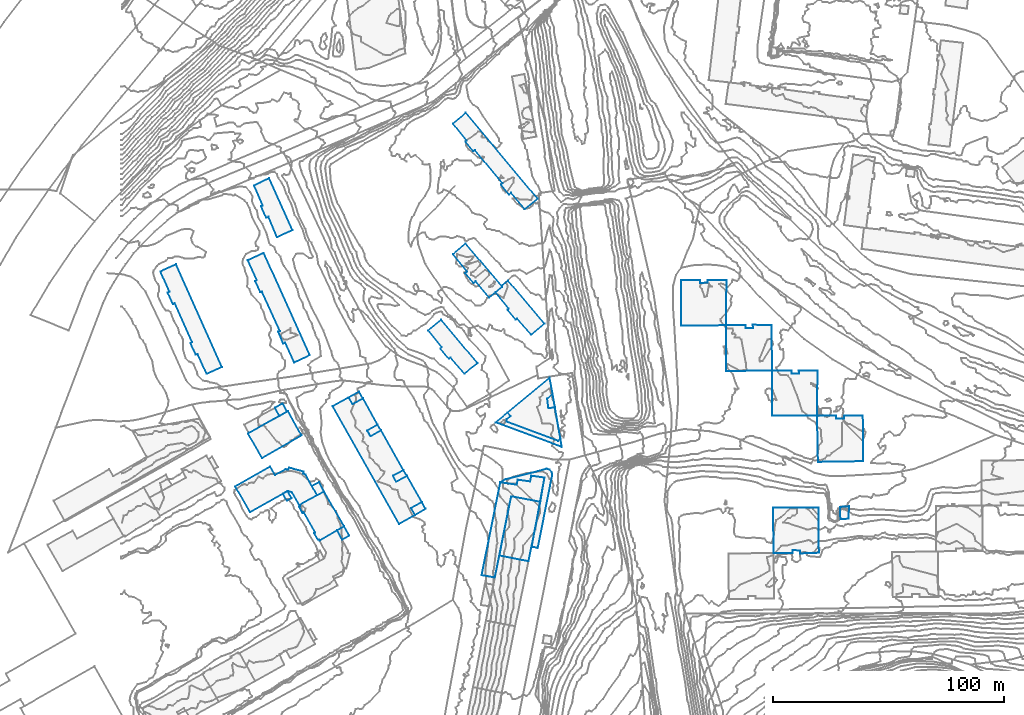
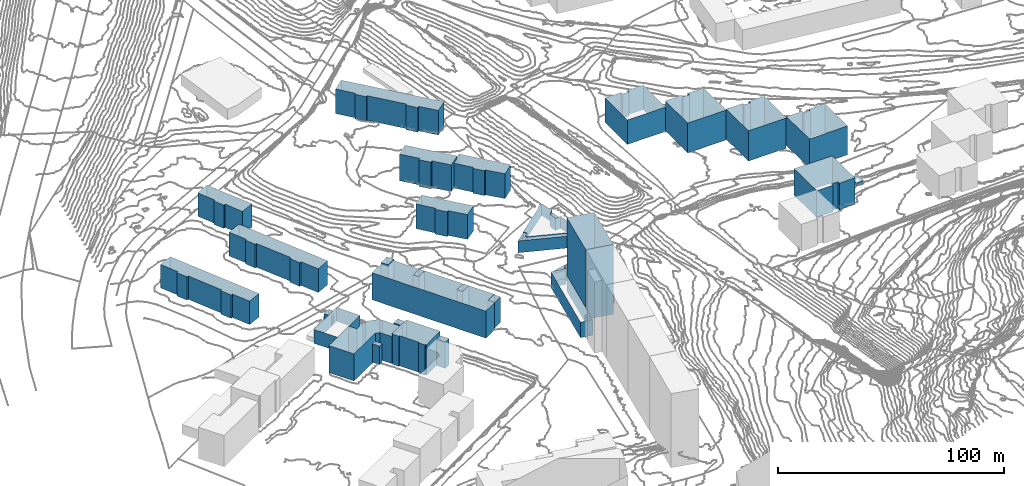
# Not in any storey, part 30 of 419: 31 walls.
"""IFC2X3 model written with IfcOpenShell, lengths in metres."""

from ifc_helpers import new_model, si_unit, frame, origin_with_axes, place, context, subcontext, project, faceted_brep, element, save


model = new_model("IFC2X3")

# Units and contexts
model_context = context("Model", 3, precision=1e-05, world=origin_with_axes())
body_context = subcontext(model_context, "Body", "Model", "MODEL_VIEW")
ifc_project = project(units=[si_unit("AREAUNIT", "SQUARE_METRE"), si_unit("LENGTHUNIT", "METRE")], contexts=[model_context])

# Walls
wall_1_placement = place(None, frame((261.3920204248, 558.3976909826, 23.918000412), z_axis=(0.0, 0.0, 1.0), x_axis=(1.0, 0.0, 0.0)))
element("IfcWall", 1, at=wall_1_placement, Name="Mur 0", context=body_context, shape_type="Brep", body=[
    faceted_brep([(0.0, 0.0, 16.181999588), (0.0, 19.7999999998, 16.181999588), (0.0, 0.0, 0.0), (0.0, 19.7999999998, 0.0), (19.7999999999, 0.2000000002, 16.181999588), (19.7999999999, 0.2000000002, 0.0), (19.7, 19.9000000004, 16.181999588), (19.7, 19.9000000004, 0.0), (11.5, 20.0, 16.181999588), (11.5, 20.0, 0.0), (11.6, 18.5999999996, 16.181999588), (11.6, 18.5999999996, 0.0), (8.3999999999, 18.5999999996, 16.181999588), (8.3999999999, 18.5999999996, 0.0), (8.5, 19.9000000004, 16.181999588), (8.5, 19.9000000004, 0.0)], [[[0, 1, 2]], [[2, 1, 3]], [[4, 0, 5]], [[5, 0, 2]], [[6, 4, 7]], [[7, 4, 5]], [[8, 6, 9]], [[9, 6, 7]], [[10, 8, 11]], [[11, 8, 9]], [[12, 10, 13]], [[13, 10, 11]], [[1, 14, 3]], [[3, 14, 15]], [[14, 12, 15]], [[15, 12, 13]]]),
])
wall_2_placement = place(None, frame((166.4920204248, 536.4976909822, 18.7135003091), z_axis=(0.0, 0.0, 1.0), x_axis=(1.0, 0.0, 0.0)))
element("IfcWall", 2, at=wall_2_placement, Name="Mur 0", context=body_context, shape_type="Brep", body=[
    faceted_brep([(1.6, 2.4000000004, 6.4864996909), (0.4, 4.0, 6.4864996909), (1.6, 2.4000000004, 0.0), (0.4, 4.0, 0.0), (0.0, 1.1000000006, 6.4864996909), (0.0, 1.1000000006, 0.0), (0.0, 0.0, 6.4864996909), (0.0, 0.0, 0.0), (22.1, -8.2999999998, 6.4864996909), (22.1, -8.2999999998, 0.0), (23.2, -7.2999999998, 6.4864996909), (23.2, -7.2999999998, 0.0), (20.7999999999, 6.2000000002, 6.4864996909), (20.7999999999, 6.2000000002, 0.0), (18.0, 5.8000000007, 6.4864996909), (18.0, 5.8000000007, 0.0), (17.5, 9.9000000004, 6.4864996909), (17.5, 9.9000000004, 0.0), (19.7999999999, 12.1000000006, 6.4864996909), (19.7999999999, 12.1000000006, 0.0), (18.5, 19.0, 6.4864996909), (18.5, 19.0, 0.0)], [[[0, 1, 2]], [[2, 1, 3]], [[4, 0, 5]], [[5, 0, 2]], [[6, 4, 7]], [[7, 4, 5]], [[8, 6, 9]], [[9, 6, 7]], [[10, 8, 11]], [[11, 8, 9]], [[12, 10, 13]], [[13, 10, 11]], [[14, 12, 15]], [[15, 12, 13]], [[16, 14, 17]], [[17, 14, 15]], [[18, 16, 19]], [[19, 16, 17]], [[1, 20, 3]], [[3, 20, 21]], [[20, 18, 21]], [[21, 18, 19]]]),
])
wall_3_placement = place(None, frame((183.9920204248, 546.3976909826, 18.9063995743), z_axis=(0.0, 0.0, 1.0), x_axis=(1.0, 0.0, 0.0)))
element("IfcWall", 3, at=wall_3_placement, Name="Mur 0", context=body_context, shape_type="Brep", body=[
    faceted_brep([(0.0, 0.0, 5.1936004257), (2.2999999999, 2.2000000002, 5.1936004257), (0.0, 0.0, 0.0), (2.2999999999, 2.2000000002, 0.0), (0.5, -4.0999999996, 5.1936004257), (0.5, -4.0999999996, 0.0), (3.2999999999, -3.7000000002, 5.1936004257), (3.2999999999, -3.7000000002, 0.0)], [[[0, 1, 2]], [[2, 1, 3]], [[4, 0, 5]], [[5, 0, 2]], [[1, 6, 3]], [[3, 6, 7]], [[6, 4, 7]], [[7, 4, 5]]]),
])
wall_4_placement = place(None, frame((82.1920204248, 508.6976909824, 9.9609997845), z_axis=(0.0, 0.0, 1.0), x_axis=(1.0, 0.0, 0.0)))
element("IfcWall", 4, at=wall_4_placement, Name="Mur 0", context=body_context, shape_type="Brep", body=[
    faceted_brep([(2.3, -4.0, 15.0390002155), (0.0, 0.0, 15.0390002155), (2.3, -4.0, 0.0), (0.0, 0.0, 0.0), (5.3, -2.3999999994, 15.0390002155), (5.3, -2.3999999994, 0.0), (3.2000000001, 1.6000000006, 15.0390002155), (3.2000000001, 1.6000000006, 0.0)], [[[0, 1, 2]], [[2, 1, 3]], [[4, 0, 5]], [[5, 0, 2]], [[1, 6, 3]], [[3, 6, 7]], [[6, 4, 7]], [[7, 4, 5]]]),
])
wall_5_placement = place(None, frame((93.0920204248, 489.4976909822, 9.7441997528), z_axis=(0.0, 0.0, 1.0), x_axis=(1.0, 0.0, 0.0)))
element("IfcWall", 5, at=wall_5_placement, Name="Mur 0", context=body_context, shape_type="Brep", body=[
    faceted_brep([(0.0, 0.0, 13.9558002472), (3.0, 1.8000000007, 13.9558002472), (0.0, 0.0, 0.0), (3.0, 1.8000000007, 0.0), (2.2, -4.0, 13.9558002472), (2.2, -4.0, 0.0), (5.3, -2.1999999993, 13.9558002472), (5.3, -2.1999999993, 0.0)], [[[0, 1, 2]], [[2, 1, 3]], [[4, 0, 5]], [[5, 0, 2]], [[1, 6, 3]], [[3, 6, 7]], [[6, 4, 7]], [[7, 4, 5]]]),
])
wall_6_placement = place(None, frame((125.1920204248, 499.1976909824, 14.0700001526), z_axis=(0.0, 0.0, 1.0), x_axis=(1.0, 0.0, 0.0)))
element("IfcWall", 6, at=wall_6_placement, Name="Mur 0", context=body_context, shape_type="Brep", body=[
    faceted_brep([(6.1, -0.3999999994, 13.7299998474), (1.6, -3.0, 13.7299998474), (6.1, -0.3999999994, 0.0), (1.6, -3.0, 0.0), (4.6, 2.6000000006, 13.7299998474), (4.6, 2.6000000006, 0.0), (0.0, 0.0, 13.7299998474), (0.0, 0.0, 0.0)], [[[0, 1, 2]], [[2, 1, 3]], [[4, 0, 5]], [[5, 0, 2]], [[1, 6, 3]], [[3, 6, 7]], [[6, 4, 7]], [[7, 4, 5]]]),
])
wall_7_placement = place(None, frame((106.1920204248, 532.6976909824, 14.2120002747), z_axis=(0.0, 0.0, 1.0), x_axis=(1.0, 0.0, 0.0)))
element("IfcWall", 7, at=wall_7_placement, Name="Mur 0", context=body_context, shape_type="Brep", body=[
    faceted_brep([(0.0, 0.0, 13.7879997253), (4.4, 2.5, 13.7879997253), (0.0, 0.0, 0.0), (4.4, 2.5, 0.0), (1.4, -2.5, 13.7879997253), (1.4, -2.5, 0.0), (5.9, 0.1000000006, 13.7879997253), (5.9, 0.1000000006, 0.0)], [[[0, 1, 2]], [[2, 1, 3]], [[4, 0, 5]], [[5, 0, 2]], [[1, 6, 3]], [[3, 6, 7]], [[6, 4, 7]], [[7, 4, 5]]]),
])
wall_8_placement = place(None, frame((66.1920204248, 542.4976909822, 10.0399999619), z_axis=(0.0, 0.0, 1.0), x_axis=(1.0, 0.0, 0.0)))
element("IfcWall", 8, at=wall_8_placement, Name="Mur 0", context=body_context, shape_type="Brep", body=[
    faceted_brep([(2.0, -3.5, 5.0600000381), (0.0, 0.0, 5.0600000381), (2.0, -3.5, 0.0), (0.0, 0.0, 0.0), (5.2000000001, -1.5999999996, 5.0600000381), (5.2000000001, -1.5999999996, 0.0), (3.4, 1.9000000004, 5.0600000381), (3.4, 1.9000000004, 0.0)], [[[0, 1, 2]], [[2, 1, 3]], [[4, 0, 5]], [[5, 0, 2]], [[1, 6, 3]], [[3, 6, 7]], [[6, 4, 7]], [[7, 4, 5]]]),
])
wall_9_placement = place(None, frame((54.5920204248, 531.3976909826, 9.7736001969), z_axis=(0.0, 0.0, 1.0), x_axis=(1.0, 0.0, 0.0)))
element("IfcWall", 9, at=wall_9_placement, Name="Mur 0", context=body_context, shape_type="Brep", body=[
    faceted_brep([(0.0, 0.0, 7.5263998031), (0.4, 0.2999999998, 7.5263998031), (0.0, 0.0, 0.0), (0.4, 0.2999999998, 0.0), (6.1, -10.5999999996, 7.5263998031), (6.1, -10.5999999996, 0.0), (23.1, -0.7999999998, 7.5263998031), (23.1, -0.7999999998, 0.0), (17.3, 9.7000000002, 7.5263998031), (17.3, 9.7000000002, 0.0)], [[[0, 1, 2]], [[2, 1, 3]], [[4, 0, 5]], [[5, 0, 2]], [[6, 4, 7]], [[7, 4, 5]], [[1, 8, 3]], [[3, 8, 9]], [[8, 6, 9]], [[9, 6, 7]]]),
])
wall_10_placement = place(None, frame((163.2920204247, 478.5976909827, 16.6299998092), z_axis=(0.0, 0.0, 1.0), x_axis=(1.0, 0.0, 0.0)))
element("IfcWall", 10, at=wall_10_placement, Name="Mur 0", context=body_context, shape_type="Brep", body=[
    faceted_brep([(17.7000000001, 23.2000000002, 37.6700001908), (12.6000000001, -2.5, 37.6700001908), (17.7000000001, 23.2000000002, 0.0), (12.6000000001, -2.5, 0.0), (5.1000000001, 25.5999999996, 37.6700001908), (5.1000000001, 25.5999999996, 0.0), (0.0, 0.0, 37.6700001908), (0.0, 0.0, 0.0)], [[[0, 1, 2]], [[2, 1, 3]], [[4, 0, 5]], [[5, 0, 2]], [[1, 6, 3]], [[3, 6, 7]], [[6, 4, 7]], [[7, 4, 5]]]),
])
wall_11_placement = place(None, frame((310.6920204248, 499.5976909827, 27.395499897), z_axis=(0.0, 0.0, 1.0), x_axis=(1.0, 0.0, 0.0)))
element("IfcWall", 11, at=wall_11_placement, Name="Mur 0", context=body_context, shape_type="Brep", body=[
    faceted_brep([(3.8, 0.2999999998, 1.904500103), (3.7000000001, -5.1000000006, 1.904500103), (3.8, 0.2999999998, 0.0), (3.7000000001, -5.1000000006, 0.0), (0.0, 0.0, 1.904500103), (0.0, 0.0, 0.0), (0.1, -5.2000000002, 1.904500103), (0.1, -5.2000000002, 0.0)], [[[0, 1, 2]], [[2, 1, 3]], [[4, 0, 5]], [[5, 0, 2]], [[1, 6, 3]], [[3, 6, 7]], [[6, 4, 7]], [[7, 4, 5]]]),
])
wall_12_placement = place(None, frame((98.0920204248, 546.9976909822, 13.6560001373), z_axis=(0.0, 0.0, 1.0), x_axis=(1.0, 0.0, 0.0)))
element("IfcWall", 12, at=wall_12_placement, Name="Mur 0", context=body_context, shape_type="Brep", body=[
    faceted_brep([(1.7, -2.8999999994, 15.1439998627), (0.0, 0.0, 15.1439998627), (1.7, -2.8999999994, 0.0), (0.0, 0.0, 0.0), (6.2, -0.3999999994, 15.1439998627), (6.2, -0.3999999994, 0.0), (4.5, 2.5, 15.1439998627), (4.5, 2.5, 0.0)], [[[0, 1, 2]], [[2, 1, 3]], [[4, 0, 5]], [[5, 0, 2]], [[1, 6, 3]], [[3, 6, 7]], [[6, 4, 7]], [[7, 4, 5]]]),
])
wall_13_placement = place(None, frame((300.6920204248, 539.1976909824, 25.8771994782), z_axis=(0.0, 0.0, 1.0), x_axis=(1.0, 0.0, 0.0)))
element("IfcWall", 13, at=wall_13_placement, Name="Mur 0", context=body_context, shape_type="Brep", body=[
    faceted_brep([(0.4, -20.0999999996, 15.6228005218), (0.0, 0.0, 15.6228005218), (0.4, -20.0999999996, 0.0), (0.0, 0.0, 0.0), (20.0, -19.7999999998, 15.6228005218), (20.0, -19.7999999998, 0.0), (19.8, 0.0, 15.6228005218), (19.8, 0.0, 0.0), (11.6, -0.0999999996, 15.6228005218), (11.6, -0.0999999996, 0.0), (11.6, -1.2999999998, 15.6228005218), (11.6, -1.2999999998, 0.0), (8.3, -1.3999999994, 15.6228005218), (8.3, -1.3999999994, 0.0), (8.3, -0.0999999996, 15.6228005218), (8.3, -0.0999999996, 0.0)], [[[0, 1, 2]], [[2, 1, 3]], [[4, 0, 5]], [[5, 0, 2]], [[6, 4, 7]], [[7, 4, 5]], [[8, 6, 9]], [[9, 6, 7]], [[10, 8, 11]], [[11, 8, 9]], [[12, 10, 13]], [[13, 10, 11]], [[1, 14, 3]], [[3, 14, 15]], [[14, 12, 15]], [[15, 12, 13]]]),
])
wall_14_placement = place(None, frame((143.1920204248, 665.4976909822, 21.6827999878), z_axis=(0.0, 0.0, 1.0), x_axis=(1.0, 0.0, 0.0)))
element("IfcWall", 14, at=wall_14_placement, Name="Mur 0", context=body_context, shape_type="Brep", body=[
    faceted_brep([(6.0, -7.3999999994, 13.3172000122), (0.0, 0.0, 13.3172000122), (6.0, -7.3999999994, 0.0), (0.0, 0.0, 0.0), (5.4, -7.8999999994, 13.3172000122), (5.4, -7.8999999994, 0.0), (8.8, -11.8999999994, 13.3172000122), (8.8, -11.8999999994, 0.0), (9.5, -11.5, 13.3172000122), (9.5, -11.5, 0.0), (21.4, -25.7999999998, 13.3172000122), (21.4, -25.7999999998, 0.0), (20.8, -26.3999999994, 13.3172000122), (20.8, -26.3999999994, 0.0), (24.3, -30.6999999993, 13.3172000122), (24.3, -30.6999999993, 0.0), (25.1, -30.0, 13.3172000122), (25.1, -30.0, 0.0), (31.1, -37.0999999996, 13.3172000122), (31.1, -37.0999999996, 0.0), (36.7000000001, -32.5999999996, 13.3172000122), (36.7000000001, -32.5999999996, 0.0), (5.6, 4.6000000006, 13.3172000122), (5.6, 4.6000000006, 0.0)], [[[0, 1, 2]], [[2, 1, 3]], [[4, 0, 5]], [[5, 0, 2]], [[6, 4, 7]], [[7, 4, 5]], [[8, 6, 9]], [[9, 6, 7]], [[10, 8, 11]], [[11, 8, 9]], [[12, 10, 13]], [[13, 10, 11]], [[14, 12, 15]], [[15, 12, 13]], [[16, 14, 17]], [[17, 14, 15]], [[18, 16, 19]], [[19, 16, 17]], [[20, 18, 21]], [[21, 18, 19]], [[1, 22, 3]], [[3, 22, 23]], [[22, 20, 23]], [[23, 20, 21]]]),
])
wall_15_placement = place(None, frame((281.6920204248, 499.2976909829, 29.7783000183), z_axis=(0.0, 0.0, 1.0), x_axis=(1.0, 0.0, 0.0)))
element("IfcWall", 15, at=wall_15_placement, Name="Mur 0", context=body_context, shape_type="Brep", body=[
    faceted_brep([(8.5, -19.7000000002, 14.4216999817), (0.2000000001, -19.7000000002, 14.4216999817), (8.5, -19.7000000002, 0.0), (0.2000000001, -19.7000000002, 0.0), (8.5, -18.4000000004, 14.4216999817), (8.5, -18.4000000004, 0.0), (11.7000000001, -18.5, 14.4216999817), (11.7000000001, -18.5, 0.0), (11.7000000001, -19.8000000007, 14.4216999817), (11.7000000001, -19.8000000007, 0.0), (19.8, -19.5, 14.4216999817), (19.8, -19.5, 0.0), (19.6, 0.0, 14.4216999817), (19.6, 0.0, 0.0), (0.0, 0.0, 14.4216999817), (0.0, 0.0, 0.0)], [[[0, 1, 2]], [[2, 1, 3]], [[4, 0, 5]], [[5, 0, 2]], [[6, 4, 7]], [[7, 4, 5]], [[8, 6, 9]], [[9, 6, 7]], [[10, 8, 11]], [[11, 8, 9]], [[12, 10, 13]], [[13, 10, 11]], [[1, 14, 3]], [[3, 14, 15]], [[14, 12, 15]], [[15, 12, 13]]]),
])
wall_16_placement = place(None, frame((163.6920204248, 510.2976909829, 17.7051999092), z_axis=(0.0, 0.0, 1.0), x_axis=(1.0, 0.0, 0.0)))
element("IfcWall", 16, at=wall_16_placement, Name="Mur 0", context=body_context, shape_type="Brep", body=[
    faceted_brep([(7.1, -1.1000000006, 4.2948000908), (0.0, 0.0, 4.2948000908), (7.1, -1.1000000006, 0.0), (0.0, 0.0, 0.0), (7.5, 1.0999999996, 4.2948000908), (7.5, 1.0999999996, 0.0), (12.9, 0.2999999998, 4.2948000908), (12.9, 0.2999999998, 0.0), (13.4, 2.7999999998, 4.2948000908), (13.4, 2.7999999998, 0.0), (19.1, 2.0, 4.2948000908), (19.1, 2.0, 0.0), (13.6, -27.9000000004, 4.2948000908), (13.6, -27.9000000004, 0.0), (16.2000000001, -28.4000000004, 4.2948000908), (16.2000000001, -28.4000000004, 0.0), (22.5, 3.3999999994, 4.2948000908), (22.5, 3.3999999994, 0.0), (22.3, 4.3999999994, 4.2948000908), (22.3, 4.3999999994, 0.0), (21.4, 5.3999999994, 4.2948000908), (21.4, 5.3999999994, 0.0), (20.1, 5.7999999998, 4.2948000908), (20.1, 5.7999999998, 0.0), (2.3, 1.2999999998, 4.2948000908), (2.3, 1.2999999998, 0.0)], [[[0, 1, 2]], [[2, 1, 3]], [[4, 0, 5]], [[5, 0, 2]], [[6, 4, 7]], [[7, 4, 5]], [[8, 6, 9]], [[9, 6, 7]], [[10, 8, 11]], [[11, 8, 9]], [[12, 10, 13]], [[13, 10, 11]], [[14, 12, 15]], [[15, 12, 13]], [[16, 14, 17]], [[17, 14, 15]], [[18, 16, 19]], [[19, 16, 17]], [[20, 18, 21]], [[21, 18, 19]], [[22, 20, 23]], [[23, 20, 21]], [[1, 24, 3]], [[3, 24, 25]], [[24, 22, 25]], [[25, 22, 23]]]),
])
wall_17_placement = place(None, frame((69.6920204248, 505.3976909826, 9.9300001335), z_axis=(0.0, 0.0, 1.0), x_axis=(1.0, 0.0, 0.0)))
element("IfcWall", 17, at=wall_17_placement, Name="Mur 0", context=body_context, shape_type="Brep", body=[
    faceted_brep([(1.7000000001, -3.0999999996, 10.0699998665), (0.0, 0.0, 10.0699998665), (1.7000000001, -3.0999999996, 0.0), (0.0, 0.0, 0.0), (3.7000000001, -2.0, 10.0699998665), (3.7000000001, -2.0, 0.0), (2.0, 1.0999999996, 10.0699998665), (2.0, 1.0999999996, 0.0)], [[[0, 1, 2]], [[2, 1, 3]], [[4, 0, 5]], [[5, 0, 2]], [[1, 6, 3]], [[3, 6, 7]], [[6, 4, 7]], [[7, 4, 5]]]),
])
wall_18_placement = place(None, frame((49.0920204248, 508.4976909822, 9.7259999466), z_axis=(0.0, 0.0, 1.0), x_axis=(1.0, 0.0, 0.0)))
element("IfcWall", 18, at=wall_18_placement, Name="Mur 0", context=body_context, shape_type="Brep", body=[
    faceted_brep([(30.4, 5.1000000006, 14.6740000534), (33.1, 0.2000000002, 14.6740000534), (30.4, 5.1000000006, 0.0), (33.1, 0.2000000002, 0.0), (29.4, 5.5, 14.6740000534), (29.4, 5.5, 0.0), (29.5, 6.4000000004, 14.6740000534), (29.5, 6.4000000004, 0.0), (23.2, 8.1000000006, 14.6740000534), (23.2, 8.1000000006, 0.0), (22.8, 7.2000000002, 14.6740000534), (22.8, 7.2000000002, 0.0), (21.7, 7.4000000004, 14.6740000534), (21.7, 7.4000000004, 0.0), (17.2, 5.0, 14.6740000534), (17.2, 5.0, 0.0), (15.1, 8.6000000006, 14.6740000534), (15.1, 8.6000000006, 0.0), (0.0, 0.0, 14.6740000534), (0.0, 0.0, 0.0), (6.4, -11.0999999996, 14.6740000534), (6.4, -11.0999999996, 0.0), (22.6, -2.0, 14.6740000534), (22.6, -2.0, 0.0), (24.6, -2.5999999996, 14.6740000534), (24.6, -2.5999999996, 0.0), (27.7, -8.0, 14.6740000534), (27.7, -8.0, 0.0), (35.4, -3.7999999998, 14.6740000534), (35.4, -3.7999999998, 0.0)], [[[0, 1, 2]], [[2, 1, 3]], [[4, 0, 5]], [[5, 0, 2]], [[6, 4, 7]], [[7, 4, 5]], [[8, 6, 9]], [[9, 6, 7]], [[10, 8, 11]], [[11, 8, 9]], [[12, 10, 13]], [[13, 10, 11]], [[14, 12, 15]], [[15, 12, 13]], [[16, 14, 17]], [[17, 14, 15]], [[18, 16, 19]], [[19, 16, 17]], [[20, 18, 21]], [[21, 18, 19]], [[22, 20, 23]], [[23, 20, 21]], [[24, 22, 25]], [[25, 22, 23]], [[26, 24, 27]], [[27, 24, 25]], [[1, 28, 3]], [[3, 28, 29]], [[28, 26, 29]], [[29, 26, 27]]]),
])
wall_19_placement = place(None, frame((161.6920204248, 536.1976909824, 18.3032001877), z_axis=(0.0, 0.0, 1.0), x_axis=(1.0, 0.0, 0.0)))
element("IfcWall", 19, at=wall_19_placement, Name="Mur 0", context=body_context, shape_type="Brep", body=[
    faceted_brep([(0.0, 0.0, 6.3967998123), (5.2000000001, 4.2999999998, 6.3967998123), (0.0, 0.0, 0.0), (5.2000000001, 4.2999999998, 0.0), (28.6, -10.5999999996, 6.3967998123), (28.6, -10.5999999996, 0.0), (28.0, -7.0, 6.3967998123), (28.0, -7.0, 0.0), (26.9, -8.0, 6.3967998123), (26.9, -8.0, 0.0), (4.8, 0.2999999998, 6.3967998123), (4.8, 0.2999999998, 0.0), (4.8, 1.4000000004, 6.3967998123), (4.8, 1.4000000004, 0.0), (6.4, 2.7000000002, 6.3967998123), (6.4, 2.7000000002, 0.0)], [[[0, 1, 2]], [[2, 1, 3]], [[4, 0, 5]], [[5, 0, 2]], [[6, 4, 7]], [[7, 4, 5]], [[8, 6, 9]], [[9, 6, 7]], [[10, 8, 11]], [[11, 8, 9]], [[12, 10, 13]], [[13, 10, 11]], [[1, 14, 3]], [[3, 14, 15]], [[14, 12, 15]], [[15, 12, 13]]]),
])
wall_20_placement = place(None, frame((117.2920204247, 513.1976909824, 14.2434998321), z_axis=(0.0, 0.0, 1.0), x_axis=(1.0, 0.0, 0.0)))
element("IfcWall", 20, at=wall_20_placement, Name="Mur 0", context=body_context, shape_type="Brep", body=[
    faceted_brep([(4.5, 2.4000000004, 13.7565001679), (6.0, -0.0999999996, 13.7565001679), (4.5, 2.4000000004, 0.0), (6.0, -0.0999999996, 0.0), (0.0, 0.0, 13.7565001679), (0.0, 0.0, 0.0), (1.4, -2.7000000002, 13.7565001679), (1.4, -2.7000000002, 0.0)], [[[0, 1, 2]], [[2, 1, 3]], [[4, 0, 5]], [[5, 0, 2]], [[1, 6, 3]], [[3, 6, 7]], [[6, 4, 7]], [[7, 4, 5]]]),
])
wall_21_placement = place(None, frame((76.6920204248, 499.7976909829, 9.8620001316), z_axis=(0.0, 0.0, 1.0), x_axis=(1.0, 0.0, 0.0)))
element("IfcWall", 21, at=wall_21_placement, Name="Mur 0", context=body_context, shape_type="Brep", body=[
    faceted_brep([(0.1, 0.6999999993, 16.3379998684), (7.8, 4.8999999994, 16.3379998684), (0.1, 0.6999999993, 0.0), (7.8, 4.8999999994, 0.0), (0.4, 0.1999999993, 16.3379998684), (0.4, 0.1999999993, 0.0), (0.0, 0.0, 16.3379998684), (0.0, 0.0, 0.0), (1.5, -2.8000000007, 16.3379998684), (1.5, -2.8000000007, 0.0), (2.0, -2.5, 16.3379998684), (2.0, -2.5, 0.0), (7.0, -11.3000000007, 16.3379998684), (7.0, -11.3000000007, 0.0), (6.5, -11.5, 16.3379998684), (6.5, -11.5, 0.0), (8.2000000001, -14.4000000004, 16.3379998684), (8.2000000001, -14.4000000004, 0.0), (8.6, -14.2000000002, 16.3379998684), (8.6, -14.2000000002, 0.0), (8.9, -14.7000000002, 16.3379998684), (8.9, -14.7000000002, 0.0), (19.4, -8.5, 16.3379998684), (19.4, -8.5, 0.0), (10.8, 6.5, 16.3379998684), (10.8, 6.5, 0.0)], [[[0, 1, 2]], [[2, 1, 3]], [[4, 0, 5]], [[5, 0, 2]], [[6, 4, 7]], [[7, 4, 5]], [[8, 6, 9]], [[9, 6, 7]], [[10, 8, 11]], [[11, 8, 9]], [[12, 10, 13]], [[13, 10, 11]], [[14, 12, 15]], [[15, 12, 13]], [[16, 14, 17]], [[17, 14, 15]], [[18, 16, 19]], [[19, 16, 17]], [[20, 18, 21]], [[21, 18, 19]], [[22, 20, 23]], [[23, 20, 21]], [[1, 24, 3]], [[3, 24, 25]], [[24, 22, 25]], [[25, 22, 23]]]),
])
wall_22_placement = place(None, frame((155.5920204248, 470.0976909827, 14.5910001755), z_axis=(0.0, 0.0, 1.0), x_axis=(1.0, 0.0, 0.0)))
element("IfcWall", 22, at=wall_22_placement, Name="Mur 0", context=body_context, shape_type="Brep", body=[
    faceted_brep([(27.2, 42.2000000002, 8.4089998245), (25.4, 31.7000000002, 8.4089998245), (27.2, 42.2000000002, 0.0), (25.4, 31.7000000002, 0.0), (21.5, 43.0, 8.4089998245), (21.5, 43.0, 0.0), (21.0, 40.5, 8.4089998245), (21.0, 40.5, 0.0), (15.6, 41.2999999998, 8.4089998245), (15.6, 41.2999999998, 0.0), (15.2, 39.0999999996, 8.4089998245), (15.2, 39.0999999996, 0.0), (8.1, 40.2000000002, 8.4089998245), (8.1, 40.2000000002, 0.0), (0.0, 0.0, 8.4089998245), (0.0, 0.0, 0.0), (5.7, -1.0, 8.4089998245), (5.7, -1.0, 0.0), (12.8, 34.0999999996, 8.4089998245), (12.8, 34.0999999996, 0.0)], [[[0, 1, 2]], [[2, 1, 3]], [[4, 0, 5]], [[5, 0, 2]], [[6, 4, 7]], [[7, 4, 5]], [[8, 6, 9]], [[9, 6, 7]], [[10, 8, 11]], [[11, 8, 9]], [[12, 10, 13]], [[13, 10, 11]], [[14, 12, 15]], [[15, 12, 13]], [[16, 14, 17]], [[17, 14, 15]], [[1, 18, 3]], [[3, 18, 19]], [[18, 16, 19]], [[19, 16, 17]]]),
])
wall_23_placement = place(None, frame((132.4920204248, 575.9976909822, 17.4988001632), z_axis=(0.0, 0.0, 1.0), x_axis=(1.0, 0.0, 0.0)))
element("IfcWall", 23, at=wall_23_placement, Name="Mur 0", context=body_context, shape_type="Brep", body=[
    faceted_brep([(5.9, -7.2999999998, 13.4011998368), (0.0, 0.0, 13.4011998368), (5.9, -7.2999999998, 0.0), (0.0, 0.0, 0.0), (5.2999999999, -7.8999999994, 13.4011998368), (5.2999999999, -7.8999999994, 0.0), (9.0, -12.2999999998, 13.4011998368), (9.0, -12.2999999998, 0.0), (9.7, -11.6999999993, 13.4011998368), (9.7, -11.6999999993, 0.0), (15.7, -18.5999999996, 13.4011998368), (15.7, -18.5999999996, 0.0), (21.4, -14.1999999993, 13.4011998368), (21.4, -14.1999999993, 0.0), (5.6, 4.6000000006, 13.4011998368), (5.6, 4.6000000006, 0.0)], [[[0, 1, 2]], [[2, 1, 3]], [[4, 0, 5]], [[5, 0, 2]], [[6, 4, 7]], [[7, 4, 5]], [[8, 6, 9]], [[9, 6, 7]], [[10, 8, 11]], [[11, 8, 9]], [[12, 10, 13]], [[13, 10, 11]], [[1, 14, 3]], [[3, 14, 15]], [[14, 12, 15]], [[15, 12, 13]]]),
])
wall_24_placement = place(None, frame((16.6920204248, 601.4976909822, 10.534799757), z_axis=(0.0, 0.0, 1.0), x_axis=(1.0, 0.0, 0.0)))
element("IfcWall", 24, at=wall_24_placement, Name="Mur 0", context=body_context, shape_type="Brep", body=[
    faceted_brep([(3.9, -8.7999999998, 12.665200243), (0.0, 0.0, 12.665200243), (3.9, -8.7999999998, 0.0), (0.0, 0.0, 0.0), (3.1, -9.0999999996, 12.665200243), (3.1, -9.0999999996, 0.0), (5.4, -14.0999999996, 12.665200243), (5.4, -14.0999999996, 0.0), (6.2000000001, -13.7999999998, 12.665200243), (6.2000000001, -13.7999999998, 0.0), (13.7000000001, -30.5999999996, 12.665200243), (13.7000000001, -30.5999999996, 0.0), (13.0, -31.0, 12.665200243), (13.0, -31.0, 0.0), (15.3, -36.0, 12.665200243), (15.3, -36.0, 0.0), (16.1, -35.6999999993, 12.665200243), (16.1, -35.6999999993, 0.0), (20.0, -44.2999999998, 12.665200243), (20.0, -44.2999999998, 0.0), (26.6, -41.2999999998, 12.665200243), (26.6, -41.2999999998, 0.0), (6.7000000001, 3.1000000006, 12.665200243), (6.7000000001, 3.1000000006, 0.0)], [[[0, 1, 2]], [[2, 1, 3]], [[4, 0, 5]], [[5, 0, 2]], [[6, 4, 7]], [[7, 4, 5]], [[8, 6, 9]], [[9, 6, 7]], [[10, 8, 11]], [[11, 8, 9]], [[12, 10, 13]], [[13, 10, 11]], [[14, 12, 15]], [[15, 12, 13]], [[16, 14, 17]], [[17, 14, 15]], [[18, 16, 19]], [[19, 16, 17]], [[20, 18, 21]], [[21, 18, 19]], [[1, 22, 3]], [[3, 22, 23]], [[22, 20, 23]], [[23, 20, 21]]]),
])
wall_25_placement = place(None, frame((281.1920204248, 558.5976909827, 24.3062007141), z_axis=(0.0, 0.0, 1.0), x_axis=(1.0, 0.0, 0.0)))
element("IfcWall", 25, at=wall_25_placement, Name="Mur 0", context=body_context, shape_type="Brep", body=[
    faceted_brep([(0.1, -19.5, 16.3937992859), (0.0, 0.0, 16.3937992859), (0.1, -19.5, 0.0), (0.0, 0.0, 0.0), (19.5, -19.4000000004, 16.3937992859), (19.5, -19.4000000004, 0.0), (19.7000000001, 0.0999999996, 16.3937992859), (19.7000000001, 0.0999999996, 0.0), (11.6, 0.0999999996, 16.3937992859), (11.6, 0.0999999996, 0.0), (11.7000000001, -1.2000000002, 16.3937992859), (11.7000000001, -1.2000000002, 0.0), (8.4, -1.2000000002, 16.3937992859), (8.4, -1.2000000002, 0.0), (8.5, 0.0, 16.3937992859), (8.5, 0.0, 0.0)], [[[0, 1, 2]], [[2, 1, 3]], [[4, 0, 5]], [[5, 0, 2]], [[6, 4, 7]], [[7, 4, 5]], [[8, 6, 9]], [[9, 6, 7]], [[10, 8, 11]], [[11, 8, 9]], [[12, 10, 13]], [[13, 10, 11]], [[1, 14, 3]], [[3, 14, 15]], [[14, 12, 15]], [[15, 12, 13]]]),
])
wall_26_placement = place(None, frame((57.1920204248, 638.6976909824, 12.5381999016), z_axis=(0.0, 0.0, 1.0), x_axis=(1.0, 0.0, 0.0)))
element("IfcWall", 26, at=wall_26_placement, Name="Mur 0", context=body_context, shape_type="Brep", body=[
    faceted_brep([(3.8, -8.7000000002, 12.6618000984), (0.0, 0.0, 12.6618000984), (3.8, -8.7000000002, 0.0), (0.0, 0.0, 0.0), (3.0, -9.0, 12.6618000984), (3.0, -9.0, 0.0), (5.3, -14.0, 12.6618000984), (5.3, -14.0, 0.0), (6.2000000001, -13.5999999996, 12.6618000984), (6.2000000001, -13.5999999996, 0.0), (9.9, -22.3999999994, 12.6618000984), (9.9, -22.3999999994, 0.0), (16.6, -19.2999999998, 12.6618000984), (16.6, -19.2999999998, 0.0), (6.5, 3.1000000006, 12.6618000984), (6.5, 3.1000000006, 0.0)], [[[0, 1, 2]], [[2, 1, 3]], [[4, 0, 5]], [[5, 0, 2]], [[6, 4, 7]], [[7, 4, 5]], [[8, 6, 9]], [[9, 6, 7]], [[10, 8, 11]], [[11, 8, 9]], [[12, 10, 13]], [[13, 10, 11]], [[1, 14, 3]], [[3, 14, 15]], [[14, 12, 15]], [[15, 12, 13]]]),
])
wall_27_placement = place(None, frame((91.1920204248, 543.1976909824, 13.3583998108), z_axis=(0.0, 0.0, 1.0), x_axis=(1.0, 0.0, 0.0)))
element("IfcWall", 27, at=wall_27_placement, Name="Mur 0", context=body_context, shape_type="Brep", body=[
    faceted_brep([(34.0, -44.0, 14.6416001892), (35.6, -47.0, 14.6416001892), (34.0, -44.0, 0.0), (35.6, -47.0, 0.0), (38.6, -41.3999999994, 14.6416001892), (38.6, -41.3999999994, 0.0), (32.1, -30.0999999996, 14.6416001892), (32.1, -30.0999999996, 0.0), (27.5, -32.7000000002, 14.6416001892), (27.5, -32.7000000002, 0.0), (26.1, -30.0, 14.6416001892), (26.1, -30.0, 0.0), (30.6, -27.5999999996, 14.6416001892), (30.6, -27.5999999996, 0.0), (20.9, -10.3999999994, 14.6416001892), (20.9, -10.3999999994, 0.0), (16.4, -13.0, 14.6416001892), (16.4, -13.0, 0.0), (15.7000000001, -11.8999999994, 14.6416001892), (15.7000000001, -11.8999999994, 0.0), (15.0, -10.5, 14.6416001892), (15.0, -10.5, 0.0), (19.4, -8.0, 14.6416001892), (19.4, -8.0, 0.0), (13.1, 3.4000000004, 14.6416001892), (13.1, 3.4000000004, 0.0), (8.6, 0.9000000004, 14.6416001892), (8.6, 0.9000000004, 0.0), (6.9, 3.7999999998, 14.6416001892), (6.9, 3.7999999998, 0.0), (0.0, 0.0, 14.6416001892), (0.0, 0.0, 0.0), (28.8, -50.8999999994, 14.6416001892), (28.8, -50.8999999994, 0.0)], [[[0, 1, 2]], [[2, 1, 3]], [[4, 0, 5]], [[5, 0, 2]], [[6, 4, 7]], [[7, 4, 5]], [[8, 6, 9]], [[9, 6, 7]], [[10, 8, 11]], [[11, 8, 9]], [[12, 10, 13]], [[13, 10, 11]], [[14, 12, 15]], [[15, 12, 13]], [[16, 14, 17]], [[17, 14, 15]], [[18, 16, 19]], [[19, 16, 17]], [[20, 18, 21]], [[21, 18, 19]], [[22, 20, 23]], [[23, 20, 21]], [[24, 22, 25]], [[25, 22, 23]], [[26, 24, 27]], [[27, 24, 25]], [[28, 26, 29]], [[29, 26, 27]], [[30, 28, 31]], [[31, 28, 29]], [[1, 32, 3]], [[3, 32, 33]], [[32, 30, 33]], [[33, 30, 31]]]),
])
wall_28_placement = place(None, frame((54.4920204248, 606.2976909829, 11.641999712), z_axis=(0.0, 0.0, 1.0), x_axis=(1.0, 0.0, 0.0)))
element("IfcWall", 28, at=wall_28_placement, Name="Mur 0", context=body_context, shape_type="Brep", body=[
    faceted_brep([(3.9, -8.5, 12.858000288), (0.0, 0.0, 12.858000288), (3.9, -8.5, 0.0), (0.0, 0.0, 0.0), (3.2, -8.9000000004, 12.858000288), (3.2, -8.9000000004, 0.0), (5.4, -13.8000000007, 12.858000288), (5.4, -13.8000000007, 0.0), (6.1, -13.6000000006, 12.858000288), (6.1, -13.6000000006, 0.0), (13.9, -30.6000000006, 12.858000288), (13.9, -30.6000000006, 0.0), (13.2, -30.9000000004, 12.858000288), (13.2, -30.9000000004, 0.0), (15.2999999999, -36.0, 12.858000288), (15.2999999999, -36.0, 0.0), (16.2, -35.7000000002, 12.858000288), (16.2, -35.7000000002, 0.0), (20.1, -44.2000000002, 12.858000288), (20.1, -44.2000000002, 0.0), (26.7999999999, -41.0, 12.858000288), (26.7999999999, -41.0, 0.0), (6.9, 3.1999999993, 12.858000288), (6.9, 3.1999999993, 0.0)], [[[0, 1, 2]], [[2, 1, 3]], [[4, 0, 5]], [[5, 0, 2]], [[6, 4, 7]], [[7, 4, 5]], [[8, 6, 9]], [[9, 6, 7]], [[10, 8, 11]], [[11, 8, 9]], [[12, 10, 13]], [[13, 10, 11]], [[14, 12, 15]], [[15, 12, 13]], [[16, 14, 17]], [[17, 14, 15]], [[18, 16, 19]], [[19, 16, 17]], [[20, 18, 21]], [[21, 18, 19]], [[1, 22, 3]], [[3, 22, 23]], [[22, 20, 23]], [[23, 20, 21]]]),
])
wall_29_placement = place(None, frame((241.8920204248, 577.9976909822, 23.506999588), z_axis=(0.0, 0.0, 1.0), x_axis=(1.0, 0.0, 0.0)))
element("IfcWall", 29, at=wall_29_placement, Name="Mur 0", context=body_context, shape_type="Brep", body=[
    faceted_brep([(19.6, 19.8000000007, 13.193000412), (19.5, 0.2000000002, 13.193000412), (19.6, 19.8000000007, 0.0), (19.5, 0.2000000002, 0.0), (11.5, 19.8000000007, 13.193000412), (11.5, 19.8000000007, 0.0), (11.5, 18.6000000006, 13.193000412), (11.5, 18.6000000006, 0.0), (8.2, 18.5, 13.193000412), (8.2, 18.5, 0.0), (8.2, 19.8000000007, 13.193000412), (8.2, 19.8000000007, 0.0), (0.0, 19.8000000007, 13.193000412), (0.0, 19.8000000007, 0.0), (0.0, 0.0, 13.193000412), (0.0, 0.0, 0.0)], [[[0, 1, 2]], [[2, 1, 3]], [[4, 0, 5]], [[5, 0, 2]], [[6, 4, 7]], [[7, 4, 5]], [[8, 6, 9]], [[9, 6, 7]], [[10, 8, 11]], [[11, 8, 9]], [[12, 10, 13]], [[13, 10, 11]], [[1, 14, 3]], [[3, 14, 15]], [[14, 12, 15]], [[15, 12, 13]]]),
])
wall_30_placement = place(None, frame((143.1920204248, 608.8976909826, 19.6647996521), z_axis=(0.0, 0.0, 1.0), x_axis=(1.0, 0.0, 0.0)))
element("IfcWall", 30, at=wall_30_placement, Name="Mur 0", context=body_context, shape_type="Brep", body=[
    faceted_brep([(21.3, -14.0999999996, 14.4352003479), (18.4, -16.4000000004, 14.4352003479), (21.3, -14.0999999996, 0.0), (18.4, -16.4000000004, 0.0), (21.0, -13.5999999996, 14.4352003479), (21.0, -13.5999999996, 0.0), (5.5, 4.7000000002, 14.4352003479), (5.5, 4.7000000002, 0.0), (0.0, 0.0, 14.4352003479), (0.0, 0.0, 0.0), (6.2000000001, -7.4000000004, 14.4352003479), (6.2000000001, -7.4000000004, 0.0), (5.3, -8.0999999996, 14.4352003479), (5.3, -8.0999999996, 0.0), (9.0, -12.4000000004, 14.4352003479), (9.0, -12.4000000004, 0.0), (9.8, -11.7000000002, 14.4352003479), (9.8, -11.7000000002, 0.0), (15.7000000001, -18.7000000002, 14.4352003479), (15.7000000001, -18.7000000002, 0.0)], [[[0, 1, 2]], [[2, 1, 3]], [[4, 0, 5]], [[5, 0, 2]], [[6, 4, 7]], [[7, 4, 5]], [[8, 6, 9]], [[9, 6, 7]], [[10, 8, 11]], [[11, 8, 9]], [[12, 10, 13]], [[13, 10, 11]], [[14, 12, 15]], [[15, 12, 13]], [[16, 14, 17]], [[17, 14, 15]], [[1, 18, 3]], [[3, 18, 19]], [[18, 16, 19]], [[19, 16, 17]]]),
])
wall_31_placement = place(None, frame((161.5920204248, 592.4976909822, 19.2395999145), z_axis=(0.0, 0.0, 1.0), x_axis=(1.0, 0.0, 0.0)))
element("IfcWall", 31, at=wall_31_placement, Name="Mur 0", context=body_context, shape_type="Brep", body=[
    faceted_brep([(5.8, -7.0999999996, 13.4604000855), (0.0, 0.0, 13.4604000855), (5.8, -7.0999999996, 0.0), (0.0, 0.0, 0.0), (5.2, -7.5999999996, 13.4604000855), (5.2, -7.5999999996, 0.0), (8.8, -11.8999999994, 13.4604000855), (8.8, -11.8999999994, 0.0), (9.4, -11.5, 13.4604000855), (9.4, -11.5, 0.0), (15.5, -18.3999999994, 13.4604000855), (15.5, -18.3999999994, 0.0), (21.2, -13.5, 13.4604000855), (21.2, -13.5, 0.0), (5.4, 5.1000000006, 13.4604000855), (5.4, 5.1000000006, 0.0), (2.6, 2.8000000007, 13.4604000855), (2.6, 2.8000000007, 0.0), (2.9, 2.3000000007, 13.4604000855), (2.9, 2.3000000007, 0.0)], [[[0, 1, 2]], [[2, 1, 3]], [[4, 0, 5]], [[5, 0, 2]], [[6, 4, 7]], [[7, 4, 5]], [[8, 6, 9]], [[9, 6, 7]], [[10, 8, 11]], [[11, 8, 9]], [[12, 10, 13]], [[13, 10, 11]], [[14, 12, 15]], [[15, 12, 13]], [[16, 14, 17]], [[17, 14, 15]], [[1, 18, 3]], [[3, 18, 19]], [[18, 16, 19]], [[19, 16, 17]]]),
])

save(model, "model.ifc")
